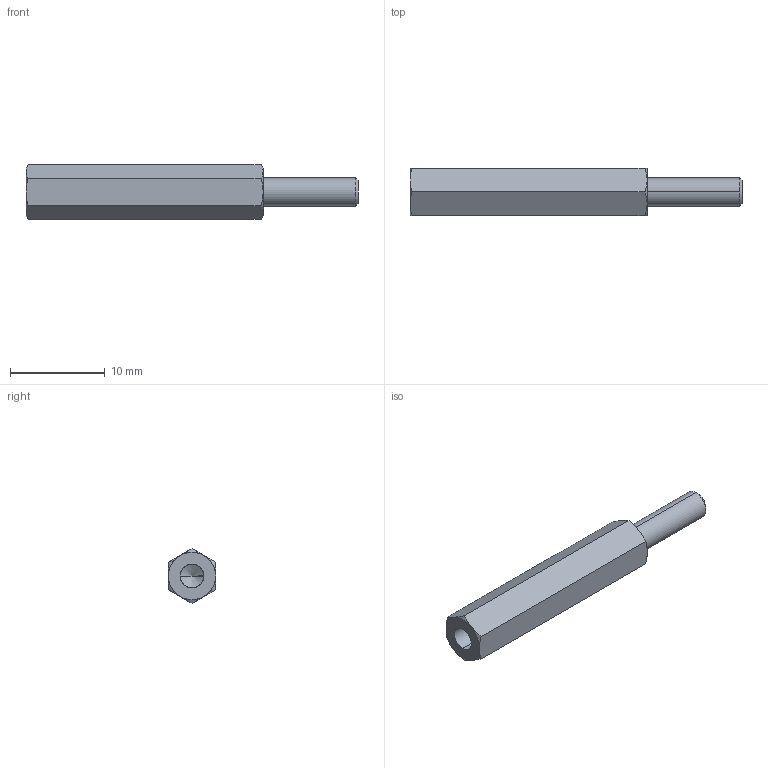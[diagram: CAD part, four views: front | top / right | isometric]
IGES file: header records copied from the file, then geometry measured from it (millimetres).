
Start section: SolidWorks IGES file using analytic representation for surfaces
Global section: file name: C:\Users\render1\Desktop\P0185_IGES\P0185.03-25.igs; native system: SolidWorks 2009; preprocessor: SolidWorks 2009; author: render1; date: 130627.111758; units: millimetre
Bounding box: 35 x 5 x 5.77 mm (x, y, z)
Surface area: 646.4 mm2 (no closed solid volume)
Topology: 0 solids, 0 shells, 29 faces, 324 edges, 322 vertices
Faces by surface type: revolution 20, bspline 9
